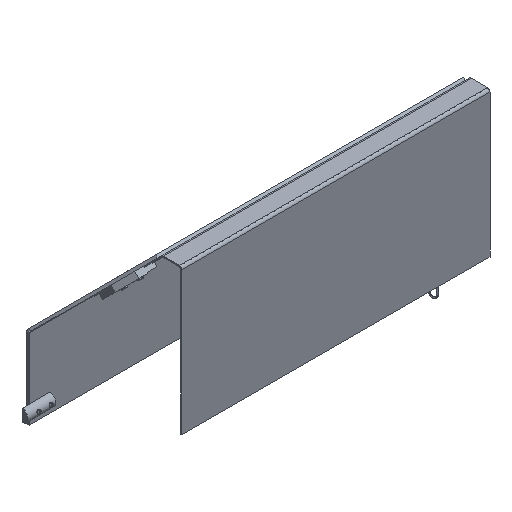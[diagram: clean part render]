
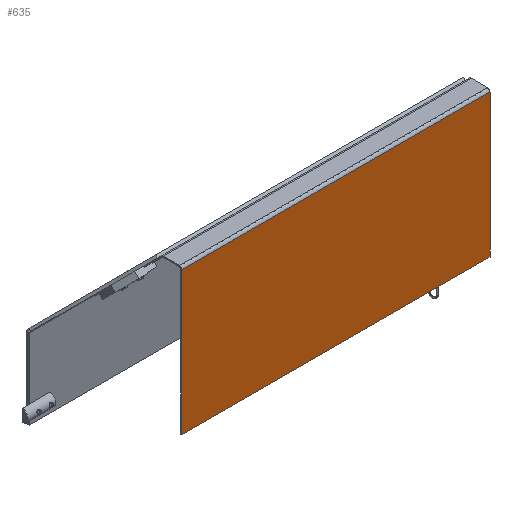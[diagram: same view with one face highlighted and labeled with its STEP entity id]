
A CAD part, isometric view. The second image highlights one B-rep face of the part: STEP entity #635.
In plain terms, the highlighted planar face has unit normal (0, -1, 0).
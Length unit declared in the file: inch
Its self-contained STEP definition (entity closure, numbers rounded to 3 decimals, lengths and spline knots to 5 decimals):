
#202=DIRECTION('',(0.,0.,1.));
#203=VECTOR('',#202,5.8922);
#204=CARTESIAN_POINT('',(6.355,-0.0478,-5.9522));
#205=LINE('',#204,#203);
#218=DIRECTION('',(0.,0.,1.));
#219=VECTOR('',#218,5.8922);
#220=CARTESIAN_POINT('',(-6.355,-0.0478,-5.9522));
#221=LINE('',#220,#219);
#222=DIRECTION('',(-1.,0.,0.));
#223=VECTOR('',#222,12.71);
#224=CARTESIAN_POINT('',(6.355,-0.0478,-5.9522));
#225=LINE('',#224,#223);
#230=DIRECTION('',(-1.,0.,0.));
#231=VECTOR('',#230,12.71);
#232=CARTESIAN_POINT('',(6.355,-0.0478,-0.06));
#233=LINE('',#232,#231);
#262=CARTESIAN_POINT('',(6.355,-0.0478,-5.9522));
#263=CARTESIAN_POINT('',(6.355,-0.0478,-0.06));
#264=VERTEX_POINT('',#262);
#265=VERTEX_POINT('',#263);
#272=CARTESIAN_POINT('',(-6.355,-0.0478,-5.9522));
#273=CARTESIAN_POINT('',(-6.355,-0.0478,-0.06));
#274=VERTEX_POINT('',#272);
#275=VERTEX_POINT('',#273);
#622=CARTESIAN_POINT('',(6.355,-0.0478,-5.9522));
#623=DIRECTION('',(0.,1.,0.));
#624=DIRECTION('',(0.,0.,1.));
#625=AXIS2_PLACEMENT_3D('',#622,#623,#624);
#626=PLANE('',#625);
#627=ORIENTED_EDGE('',*,*,#588,.F.);
#629=ORIENTED_EDGE('',*,*,#628,.T.);
#630=ORIENTED_EDGE('',*,*,#615,.T.);
#632=ORIENTED_EDGE('',*,*,#631,.F.);
#633=EDGE_LOOP('',(#627,#629,#630,#632));
#634=FACE_OUTER_BOUND('',#633,.F.);
#588=EDGE_CURVE('',#264,#265,#205,.T.);
#615=EDGE_CURVE('',#274,#275,#221,.T.);
#628=EDGE_CURVE('',#264,#274,#225,.T.);
#631=EDGE_CURVE('',#265,#275,#233,.T.);
#635=ADVANCED_FACE('',(#634),#626,.F.);
